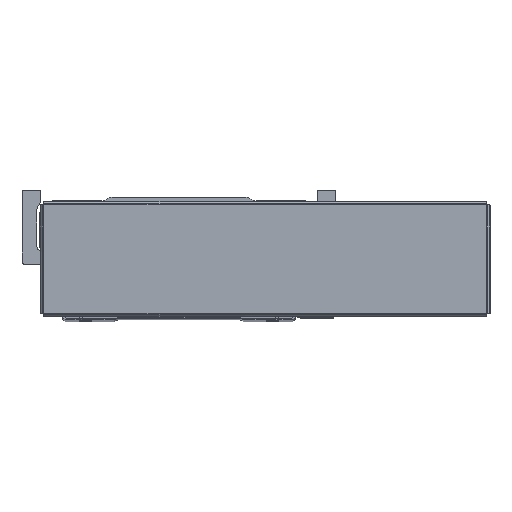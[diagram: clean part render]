
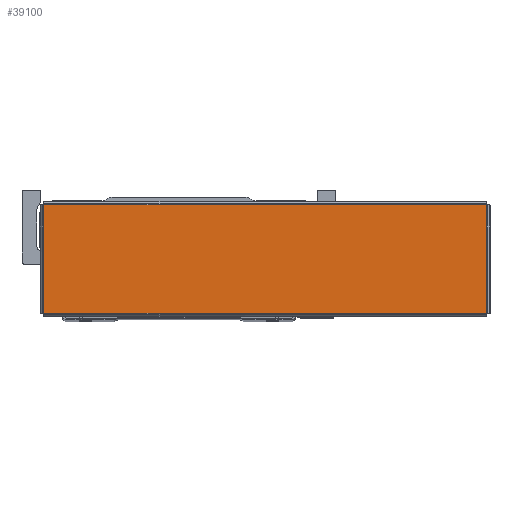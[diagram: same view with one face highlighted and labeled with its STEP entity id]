
A CAD part, top view. The second image highlights one B-rep face of the part: STEP entity #39100.
In plain terms, the highlighted planar face has unit normal (0, 0, 1) as drawn and (0, -1, 0) by its records, which use the part's own axes.
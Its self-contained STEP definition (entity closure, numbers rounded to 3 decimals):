
#757 = EDGE_LOOP ( 'NONE', ( #21635, #21485, #21442, #21535 ) ) ;
#13955 = AXIS2_PLACEMENT_3D ( 'NONE', #37698, #37710, #37717 ) ;
#17088 = FACE_OUTER_BOUND ( 'NONE', #757, .T. ) ;
#21442 = ORIENTED_EDGE ( 'NONE', *, *, #45627, .T. ) ;
#21485 = ORIENTED_EDGE ( 'NONE', *, *, #45692, .T. ) ;
#21535 = ORIENTED_EDGE ( 'NONE', *, *, #45512, .T. ) ;
#21635 = ORIENTED_EDGE ( 'NONE', *, *, #45529, .T. ) ;
#21944 = VERTEX_POINT ( 'NONE', #25898 ) ;
#21955 = VERTEX_POINT ( 'NONE', #25911 ) ;
#21982 = VERTEX_POINT ( 'NONE', #25882 ) ;
#21984 = VERTEX_POINT ( 'NONE', #25913 ) ;
#25882 = CARTESIAN_POINT ( 'NONE',  ( 128.363, -1.2, 31.363 ) ) ;
#25898 = CARTESIAN_POINT ( 'NONE',  ( -128.363, -1.2, -31.363 ) ) ;
#25911 = CARTESIAN_POINT ( 'NONE',  ( -128.363, -1.2, 31.363 ) ) ;
#25913 = CARTESIAN_POINT ( 'NONE',  ( 128.363, -1.2, -31.363 ) ) ;
#37693 = PLANE ( 'NONE',  #13955 ) ;
#37698 = CARTESIAN_POINT ( 'NONE',  ( 0., -1.2, 0. ) ) ;
#37710 = DIRECTION ( 'NONE',  ( 0., 1., 0. ) ) ;
#37717 = DIRECTION ( 'NONE',  ( 0., 0., 1. ) ) ;
#39100 = ADVANCED_FACE ( 'NONE', ( #17088 ), #37693, .F. ) ;
#41999 = CARTESIAN_POINT ( 'NONE',  ( 128.363, -1.2, -31.393 ) ) ;
#42017 = DIRECTION ( 'NONE',  ( 0., 0., 1. ) ) ;
#42041 = CARTESIAN_POINT ( 'NONE',  ( 128.393, -1.2, 31.363 ) ) ;
#42052 = DIRECTION ( 'NONE',  ( -1., 0., 0. ) ) ;
#42182 = CARTESIAN_POINT ( 'NONE',  ( -128.393, -1.2, -31.363 ) ) ;
#42188 = DIRECTION ( 'NONE',  ( 1., 0., 0. ) ) ;
#42257 = DIRECTION ( 'NONE',  ( 0., 0., -1. ) ) ;
#42266 = CARTESIAN_POINT ( 'NONE',  ( -128.363, -1.2, 31.393 ) ) ;
#45512 = EDGE_CURVE ( 'NONE', #21984, #21982, #49936, .T. ) ;
#45529 = EDGE_CURVE ( 'NONE', #21982, #21955, #49957, .T. ) ;
#45627 = EDGE_CURVE ( 'NONE', #21944, #21984, #50071, .T. ) ;
#45692 = EDGE_CURVE ( 'NONE', #21955, #21944, #50103, .T. ) ;
#49936 = LINE ( 'NONE', #41999, #49959 ) ;
#49957 = LINE ( 'NONE', #42041, #49962 ) ;
#49959 = VECTOR ( 'NONE', #42017, 1000. ) ;
#49962 = VECTOR ( 'NONE', #42052, 1000. ) ;
#50055 = VECTOR ( 'NONE', #42188, 1000. ) ;
#50071 = LINE ( 'NONE', #42182, #50055 ) ;
#50103 = LINE ( 'NONE', #42266, #50104 ) ;
#50104 = VECTOR ( 'NONE', #42257, 1000. ) ;
